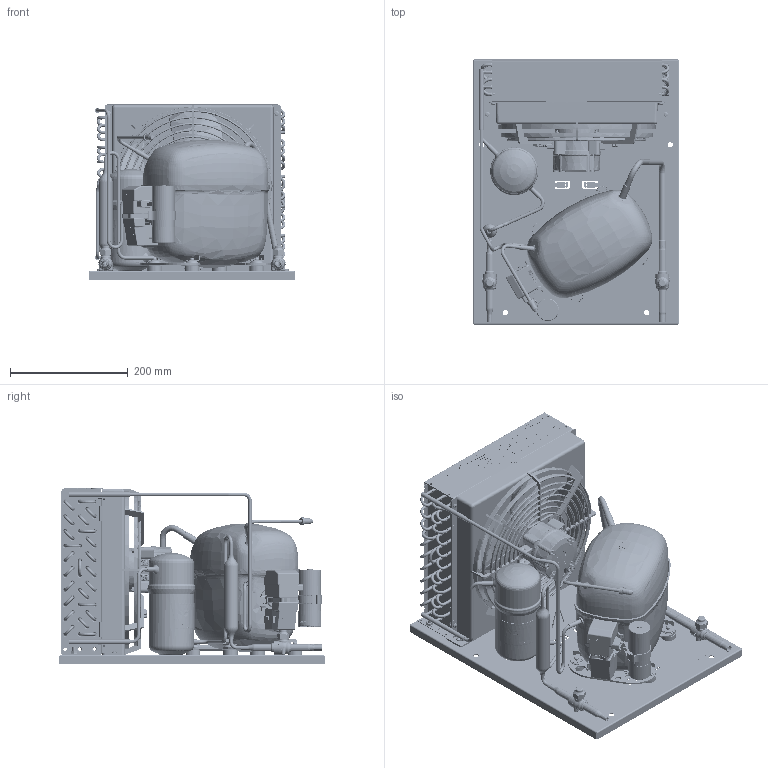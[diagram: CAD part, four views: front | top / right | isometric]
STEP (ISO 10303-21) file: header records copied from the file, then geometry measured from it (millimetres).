
FILE_DESCRIPTION(/* description */ ('Unknown','CAx-IF Rec.Pracs.---Representation and Presentation of Product Manufacturing Information (PMI)---4.0---2014-10-13','CAx-IF Rec.Pracs.---3D Tessellated Geometry---0.4---2014-09-14','2;1'),/* implementation_level */ '2;1');
FILE_NAME(/* name */ '2298-0090',/* time_stamp */ '2023-06-06T10:27:35+02:00',/* author */ ('Unknown'),/* organization */ ('Unknown'),/* preprocessor_version */ 'ST-DEVELOPER v16.7',/* originating_system */ 'Solid Edge',/* authorisation */ 'Unknown');
FILE_SCHEMA (('AP242_MANAGED_MODEL_BASED_3D_ENGINEERING_MIM_LF { 1 0 10303 442 1 1 4 }'));
Products named in the file (51): 2298-0090; 1150270fi0; rl5010806; rl5010807; r59a00320; rl5019101; 2905051822; 2905052522; r57a00320; rn5003708; rl5014904; 7000-0400; 9211-0497_oa_0; cg254n; 99511035; 99511035_PERNO; 99511035_LINGUETTA; 118-3661; 99511035_RONDELLA; 99540010; GFN30_62-62; 84a4.2x9.5xtbcf01; 84fm6x14xxxtesf00; 84DM6X5.2XXESRF00; 99500100; 7400-0070; 7070-0153; A254-28; 62010155; GBC10S-009L7031; 9221-0002; 99000205; 55300398; 6803-2380; 6803-2564; 99000324; 99000327; 99000326; 99000321; GBC6S-009L7030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
Assembly tree (120 placements, depth 3):
  2298-0090
    1150270fi0
      rl5010806
      rl5010807
      r59a00320  x8
      rl5019101
      2905051822  x18
      2905052522  x6
      r57a00320  x18
      rn5003708
      rl5014904  x2
    7000-0400
    9211-0497_oa_0
    cg254n
    99511035  x4
      99511035_PERNO
      99511035_LINGUETTA
      118-3661
      99511035_RONDELLA
    99540010
    GFN30_62-62
    84a4.2x9.5xtbcf01  x6
    84fm6x14xxxtesf00  x2
    84DM6X5.2XXESRF00  x2
    99500100
    7400-0070
    7070-0153
    A254-28
    62010155
    GBC10S-009L7031
    9221-0002
    99000205
    55300398
    6803-2380
    6803-2564
    99000324
    99000327
    99000326
    99000321
    GBC6S-009L7030
    99000025
    84dm4x3.6xxesrf00  x4
    99000044
    99000077_SECOP
    6803-2566
    6803-2565
    680061642
    6805-1934
    84DM8X6.9XXESRF00
    84fm3x6xxxxtfgf00  x4
    84rm3x8xxxxpiaf00  x8
Bounding box: 350 x 450 x 297.6 mm (x, y, z)
Volume: 6607746.7 mm3; surface area: 2617292 mm2
Topology: 138 solids, 147 shells, 15062 faces, 39017 edges, 25009 vertices
Faces by surface type: plane 6601, cylinder 3364, bspline 2631, torus 1533, cone 781, sphere 152
Full cylindrical faces by diameter (mm): 1.2 x4, 1.3 x2, 1.5 x4, 1.8 x2, 1.945 x3, 2.2 x4, 2.31 x5, 2.45 x6, 2.459 x4, 3 x6, 3.14 x6, 3.2 x3, 3.242 x4, 3.34 x8, 3.36 x4, 3.375 x1, 3.5 x20, 4 x56, 4.2 x20, 4.205 x11, 4.5 x61, 4.76 x4, 4.8 x2, 5 x113, 5.4 x4, 5.48 x104, 5.5 x1, 5.8 x4, 6 x26, 6.1 x2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
Entity records: 791638 total; most frequent: CARTESIAN_POINT 408358, ORIENTED_EDGE 69232, DIRECTION 55578, EDGE_CURVE 34616, VERTEX_POINT 22997, AXIS2_PLACEMENT_3D 20128, FACE_BOUND 17215, EDGE_LOOP 17211
